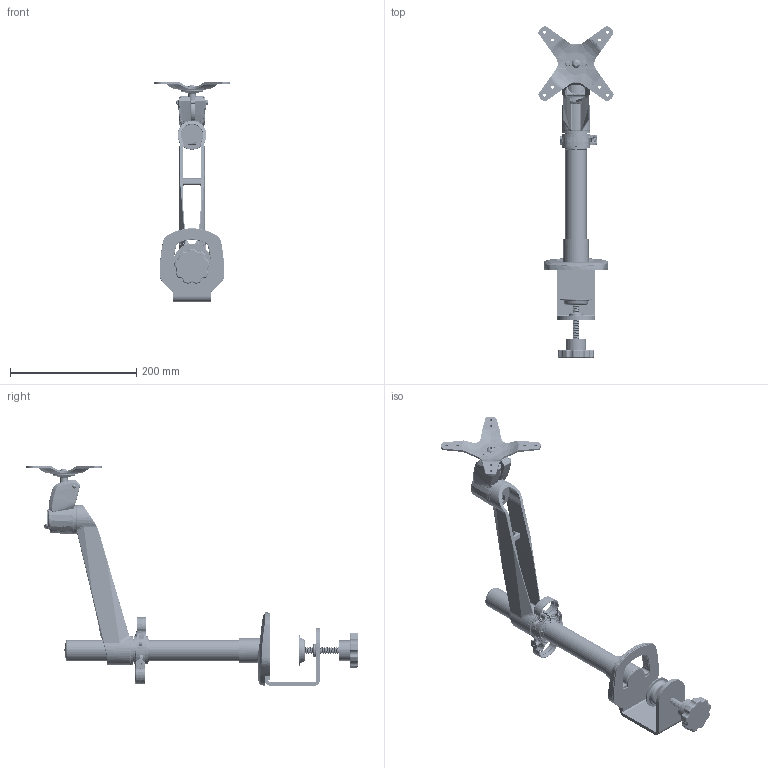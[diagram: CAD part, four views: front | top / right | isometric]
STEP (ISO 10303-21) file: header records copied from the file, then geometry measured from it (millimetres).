
FILE_DESCRIPTION((''),'2;1');
FILE_NAME('EM32116-00_ASM','2013-04-24T',('B0540'),(''),'PRO/ENGINEER BY PARAMETRIC TECHNOLOGY CORPORATION, 2012360','PRO/ENGINEER BY PARAMETRIC TECHNOLOGY CORPORATION, 2012360','');
FILE_SCHEMA(('CONFIG_CONTROL_DESIGN'));
Length unit declared in the file: millimetre
Products named in the file (43): EM35111-14; EM35111-59; EM35111-54; EM35111-38; EM35111-53; EM35111-07_ASM; EM35111-03_ASM; EM35111-17; EM35111-49-M4X8; EM35111-51; EM35111-11; AM001-_Q____-_Y_Y_____Y_ANY_ASM; EM35111-52; EM35111-36; EM35111-48-M4XW8MM; EM35111-47; EM35111-41; EM35111-46-M4X40MM; EM13011-10; EM13011-18-M8X12; EM35111-02_ASM; EM35111-58; EM35111-26; EM35111-08_ASM; EM13016-36; EM13016-17; EM13016-43-M5X10; EM13016-80; EM13016-14; EM13016-19; EM13016-37-M4X12-SCREW; EM13011-44; EM13011-60; EM13016-01_ASM; 50H196135-002_EMC35111-58; 60H307250-161_NUT-M5XP0_8MM; M5_________ANY_; 60H601098-701_WASHER-OD9_8-ID7; PRODUCT_42431_ANY_; _______X___ANY_0920_ASM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
Assembly tree (46 placements, depth 4):
  EM32116-00_ASM
    EM35111-03_ASM
      EM35111-14
      EM35111-59
      EM35111-07_ASM
        EM35111-54
        EM35111-38
        EM35111-53
    EM35111-02_ASM
      EM35111-17
      EM35111-49-M4X8
      EM35111-51
      AM001-_Q____-_Y_Y_____Y_ANY_ASM
        EM35111-11
      EM35111-59
      EM35111-52
      EM35111-36
      EM35111-48-M4XW8MM
      EM35111-47
      EM35111-41
      EM35111-46-M4X40MM
      EM13011-10
      EM13011-18-M8X12
    EM35111-08_ASM
      EM35111-58
      EM35111-48-M4XW8MM
      EM35111-26
    EM13016-01_ASM
      EM13016-36
      EM13016-17
      EM13016-43-M5X10  x3
      EM13016-80
      EM13016-14
      EM13016-19
      EM13016-37-M4X12-SCREW
      EM13011-44
      EM13011-60
    A0020-0920_ASM
      _______X___ANY_0920_ASM
        50H196135-002_EMC35111-58
        60H307250-161_NUT-M5XP0_8MM
        M5_________ANY_
        60H601098-701_WASHER-OD9_8-ID7
        PRODUCT_42431_ANY_
      _ADJUST_
Bounding box: 119.61 x 526.22 x 348.33 mm (x, y, z)
Volume: 579197.2 mm3; surface area: 374916 mm2
Topology: 38 solids, 55 shells, 5252 faces, 14252 edges, 9150 vertices
Faces by surface type: plane 2029, cylinder 1145, bspline 977, cone 441, torus 406, sphere 193, extrusion 59, revolution 2
Entity records: 257010 total; most frequent: CARTESIAN_POINT 135186, ORIENTED_EDGE 27743, DIRECTION 21693, EDGE_CURVE 13955, VERTEX_POINT 9022, AXIS2_PLACEMENT_3D 7845, VECTOR 6001, LINE 5942
